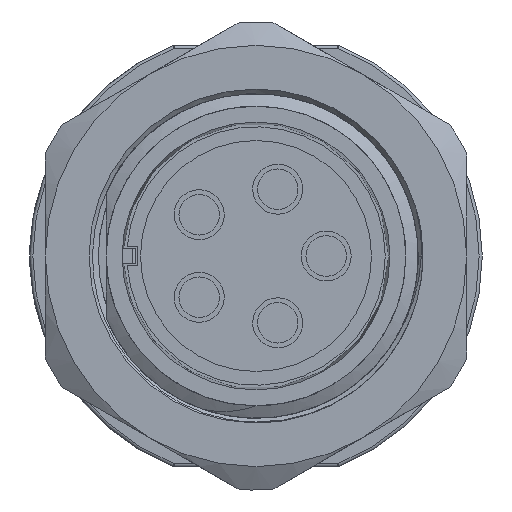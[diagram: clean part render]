
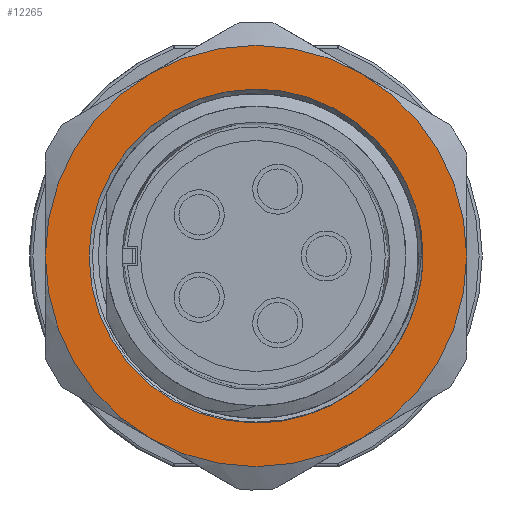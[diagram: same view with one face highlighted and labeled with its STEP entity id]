
A CAD part, left-side view. The second image highlights one B-rep face of the part: STEP entity #12265.
In plain terms, the highlighted planar face has unit normal (-1, 0, 0).
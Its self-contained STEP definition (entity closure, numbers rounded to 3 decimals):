
#4479=CARTESIAN_POINT('',(-5.5,-6.093,
-8.795));
#4488=CARTESIAN_POINT('',(-5.5,0.,0.));
#4489=DIRECTION('',(1.,0.,0.));
#4490=DIRECTION('',(0.,0.5,-0.866));
#4491=AXIS2_PLACEMENT_3D('',#4488,#4489,#4490);
#4493=CARTESIAN_POINT('',(-5.5,0.,0.));
#4494=DIRECTION('',(1.,0.,0.));
#4495=DIRECTION('',(0.,1.,0.));
#4496=AXIS2_PLACEMENT_3D('',#4493,#4494,#4495);
#4498=CARTESIAN_POINT('',(-5.5,0.,0.));
#4499=DIRECTION('',(1.,0.,0.));
#4500=DIRECTION('',(0.,0.5,0.866));
#4501=AXIS2_PLACEMENT_3D('',#4498,#4499,#4500);
#4503=CARTESIAN_POINT('',(-5.5,0.,0.));
#4504=DIRECTION('',(1.,0.,0.));
#4505=DIRECTION('',(0.,-0.5,0.866));
#4506=AXIS2_PLACEMENT_3D('',#4503,#4504,#4505);
#4508=CARTESIAN_POINT('',(-5.5,0.,0.));
#4509=DIRECTION('',(1.,0.,0.));
#4510=DIRECTION('',(0.,-1.,0.));
#4511=AXIS2_PLACEMENT_3D('',#4508,#4509,#4510);
#4513=CARTESIAN_POINT('',(-5.5,0.,0.));
#4514=DIRECTION('',(1.,0.,0.));
#4515=DIRECTION('',(0.,-0.5,-0.866));
#4516=AXIS2_PLACEMENT_3D('',#4513,#4514,#4515);
#4518=CARTESIAN_POINT('',(-5.5,0.,
0.));
#4519=DIRECTION('',(-1.,0.,0.));
#4520=DIRECTION('',(0.,-0.958,0.287));
#4521=AXIS2_PLACEMENT_3D('',#4518,#4519,#4520);
#4523=CARTESIAN_POINT('',(-5.5,0.,
0.));
#4524=DIRECTION('',(-1.,0.,0.));
#4525=DIRECTION('',(0.,0.,1.));
#4526=AXIS2_PLACEMENT_3D('',#4523,#4524,#4525);
#4528=CARTESIAN_POINT('',(-5.5,0.,
0.));
#4529=DIRECTION('',(-1.,0.,0.));
#4530=DIRECTION('',(0.,0.,-1.));
#4531=AXIS2_PLACEMENT_3D('',#4528,#4529,#4530);
#4779=CARTESIAN_POINT('',(-5.5,-10.248,
3.076));
#4780=CARTESIAN_POINT('',(-5.5,-10.392,
2.596));
#4781=CARTESIAN_POINT('',(-5.5,-10.611,
1.627));
#4782=CARTESIAN_POINT('',(-5.5,-10.733,
0.132));
#4783=CARTESIAN_POINT('',(-5.5,-10.647,
-1.362));
#4784=CARTESIAN_POINT('',(-5.5,-10.355,
-2.831));
#4785=CARTESIAN_POINT('',(-5.5,-9.859,
-4.244));
#4786=CARTESIAN_POINT('',(-5.5,-9.172,
-5.575));
#4787=CARTESIAN_POINT('',(-5.5,-8.309,
-6.798));
#4788=CARTESIAN_POINT('',(-5.5,-7.28,
-7.888));
#4789=CARTESIAN_POINT('',(-5.5,-6.505,
-8.51));
#4790=CARTESIAN_POINT('',(-5.5,-6.093,
-8.795));
#4960=CARTESIAN_POINT('',(-5.5,-10.248,
3.076));
#6083=VERTEX_POINT('',#4960);
#6092=VERTEX_POINT('',#4479);
#6096=CARTESIAN_POINT('',(-5.5,6.75,
-11.691));
#6097=CARTESIAN_POINT('',(-5.5,13.5,0.));
#6098=VERTEX_POINT('',#6096);
#6099=VERTEX_POINT('',#6097);
#6100=CARTESIAN_POINT('',(-5.5,6.75,11.691));
#6101=VERTEX_POINT('',#6100);
#6102=CARTESIAN_POINT('',(-5.5,-6.75,
11.691));
#6103=VERTEX_POINT('',#6102);
#6104=CARTESIAN_POINT('',(-5.5,-13.5,0.));
#6105=VERTEX_POINT('',#6104);
#6106=CARTESIAN_POINT('',(-5.5,-6.75,
-11.691));
#6107=VERTEX_POINT('',#6106);
#6108=CARTESIAN_POINT('',(-5.5,0.,
10.7));
#6109=VERTEX_POINT('',#6108);
#6110=CARTESIAN_POINT('',(-5.5,0.,
-10.7));
#6111=VERTEX_POINT('',#6110);
#12239=CARTESIAN_POINT('',(-5.5,0.,0.));
#12240=DIRECTION('',(1.,0.,0.));
#12241=DIRECTION('',(0.,-1.,0.));
#12242=AXIS2_PLACEMENT_3D('',#12239,#12240,#12241);
#12243=PLANE('',#12242);
#12245=ORIENTED_EDGE('',*,*,#12244,.T.);
#12247=ORIENTED_EDGE('',*,*,#12246,.T.);
#12249=ORIENTED_EDGE('',*,*,#12248,.T.);
#12251=ORIENTED_EDGE('',*,*,#12250,.T.);
#12253=ORIENTED_EDGE('',*,*,#12252,.T.);
#12255=ORIENTED_EDGE('',*,*,#12254,.T.);
#12256=EDGE_LOOP('',(#12245,#12247,#12249,#12251,#12253,#12255));
#12257=FACE_OUTER_BOUND('',#12256,.F.);
#12258=ORIENTED_EDGE('',*,*,#12230,.T.);
#12259=ORIENTED_EDGE('',*,*,#12228,.T.);
#12260=ORIENTED_EDGE('',*,*,#12226,.T.);
#12262=ORIENTED_EDGE('',*,*,#12261,.F.);
#12263=EDGE_LOOP('',(#12258,#12259,#12260,#12262));
#12264=FACE_BOUND('',#12263,.F.);
#4492=CIRCLE('',#4491,13.5);
#4497=CIRCLE('',#4496,13.5);
#4502=CIRCLE('',#4501,13.5);
#4507=CIRCLE('',#4506,13.5);
#4512=CIRCLE('',#4511,13.5);
#4517=CIRCLE('',#4516,13.5);
#4522=CIRCLE('',#4521,10.7);
#4527=CIRCLE('',#4526,10.7);
#4532=CIRCLE('',#4531,10.7);
#4791=B_SPLINE_CURVE_WITH_KNOTS('',3,(#4779,#4780,#4781,#4782,#4783,#4784,#4785,
#4786,#4787,#4788,#4789,#4790),.UNSPECIFIED.,.F.,.F.,(4,1,1,1,1,1,1,1,1,4),
(0.,0.111,0.222,0.333,0.444,
0.556,0.667,0.778,0.889,1.),
.UNSPECIFIED.);
#12226=EDGE_CURVE('',#6111,#6092,#4532,.T.);
#12228=EDGE_CURVE('',#6109,#6111,#4527,.T.);
#12230=EDGE_CURVE('',#6083,#6109,#4522,.T.);
#12244=EDGE_CURVE('',#6098,#6099,#4492,.T.);
#12246=EDGE_CURVE('',#6099,#6101,#4497,.T.);
#12248=EDGE_CURVE('',#6101,#6103,#4502,.T.);
#12250=EDGE_CURVE('',#6103,#6105,#4507,.T.);
#12252=EDGE_CURVE('',#6105,#6107,#4512,.T.);
#12254=EDGE_CURVE('',#6107,#6098,#4517,.T.);
#12261=EDGE_CURVE('',#6083,#6092,#4791,.T.);
#12265=ADVANCED_FACE('',(#12257,#12264),#12243,.F.);
